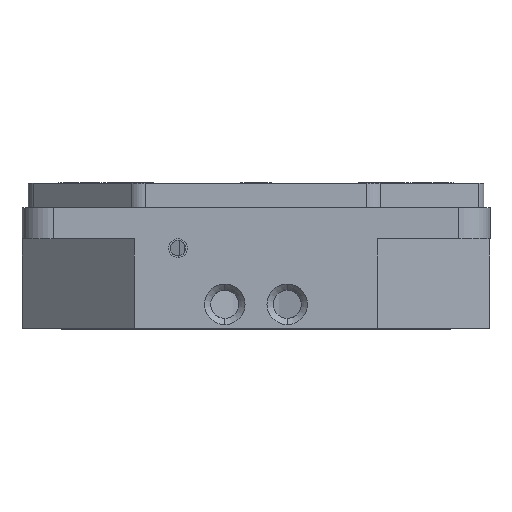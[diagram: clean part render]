
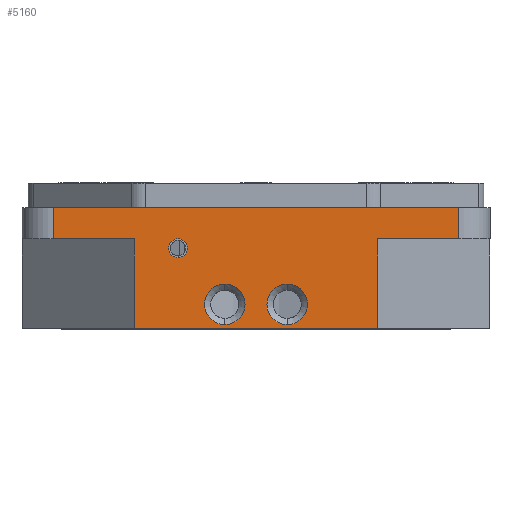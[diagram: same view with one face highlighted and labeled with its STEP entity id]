
A CAD part, front view. The second image highlights one B-rep face of the part: STEP entity #5160.
In plain terms, the highlighted planar face has unit normal (0, -1, 0).
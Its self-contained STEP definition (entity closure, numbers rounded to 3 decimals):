
#12 = DIRECTION ( 'NONE',  ( 0., 0., -1. ) ) ;
#232 = VERTEX_POINT ( 'NONE', #8601 ) ;
#301 = CARTESIAN_POINT ( 'NONE',  ( -39., -75., 29. ) ) ;
#320 = ORIENTED_EDGE ( 'NONE', *, *, #4860, .F. ) ;
#416 = DIRECTION ( 'NONE',  ( 0., -1., 0. ) ) ;
#451 = CARTESIAN_POINT ( 'NONE',  ( 39., -75., 29. ) ) ;
#520 = VERTEX_POINT ( 'NONE', #1180 ) ;
#544 = AXIS2_PLACEMENT_3D ( 'NONE', #4646, #6101, #8159 ) ;
#555 = EDGE_CURVE ( 'NONE', #7553, #1609, #5894, .T. ) ;
#560 = CARTESIAN_POINT ( 'NONE',  ( 65., -75., 39. ) ) ;
#561 = CARTESIAN_POINT ( 'NONE',  ( -65., -75., 29. ) ) ;
#663 = VECTOR ( 'NONE', #8248, 1000. ) ;
#703 = CARTESIAN_POINT ( 'NONE',  ( -65., -75., 39. ) ) ;
#757 = AXIS2_PLACEMENT_3D ( 'NONE', #8608, #4416, #3770 ) ;
#768 = FACE_BOUND ( 'NONE', #7473, .T. ) ;
#971 = EDGE_CURVE ( 'NONE', #8140, #6143, #1703, .T. ) ;
#976 = EDGE_CURVE ( 'NONE', #4348, #2391, #1151, .T. ) ;
#997 = VECTOR ( 'NONE', #8795, 1000. ) ;
#1034 = VERTEX_POINT ( 'NONE', #6052 ) ;
#1051 = DIRECTION ( 'NONE',  ( 0., 1., 0. ) ) ;
#1116 = VECTOR ( 'NONE', #3167, 1000. ) ;
#1151 = CIRCLE ( 'NONE', #8570, 2.5 ) ;
#1180 = CARTESIAN_POINT ( 'NONE',  ( 10., -75., 14.5 ) ) ;
#1332 = ORIENTED_EDGE ( 'NONE', *, *, #555, .T. ) ;
#1333 = LINE ( 'NONE', #4205, #9083 ) ;
#1356 = ORIENTED_EDGE ( 'NONE', *, *, #3494, .T. ) ;
#1517 = EDGE_LOOP ( 'NONE', ( #6042, #8488 ) ) ;
#1609 = VERTEX_POINT ( 'NONE', #5195 ) ;
#1703 = CIRCLE ( 'NONE', #757, 6.5 ) ;
#1750 = EDGE_CURVE ( 'NONE', #7039, #520, #6757, .T. ) ;
#1810 = CARTESIAN_POINT ( 'NONE',  ( -39., -75., 0.2 ) ) ;
#1893 = CARTESIAN_POINT ( 'NONE',  ( -25., -75., 23.5 ) ) ;
#2032 = DIRECTION ( 'NONE',  ( 0., 0., -1. ) ) ;
#2102 = DIRECTION ( 'NONE',  ( 0., 0., -1. ) ) ;
#2145 = CIRCLE ( 'NONE', #544, 6.5 ) ;
#2346 = ORIENTED_EDGE ( 'NONE', *, *, #2858, .T. ) ;
#2391 = VERTEX_POINT ( 'NONE', #1893 ) ;
#2504 = CARTESIAN_POINT ( 'NONE',  ( 65., -75., 29. ) ) ;
#2570 = VECTOR ( 'NONE', #7135, 1000. ) ;
#2858 = EDGE_CURVE ( 'NONE', #6907, #1034, #4977, .T. ) ;
#2893 = DIRECTION ( 'NONE',  ( 0., 0., 1. ) ) ;
#2978 = LINE ( 'NONE', #5226, #1116 ) ;
#3147 = ORIENTED_EDGE ( 'NONE', *, *, #4973, .F. ) ;
#3167 = DIRECTION ( 'NONE',  ( 1., 0., 0. ) ) ;
#3405 = CARTESIAN_POINT ( 'NONE',  ( -25., -75., 28.5 ) ) ;
#3414 = VECTOR ( 'NONE', #7868, 1000. ) ;
#3494 = EDGE_CURVE ( 'NONE', #6143, #8140, #3537, .T. ) ;
#3518 = AXIS2_PLACEMENT_3D ( 'NONE', #8134, #5319, #2893 ) ;
#3537 = CIRCLE ( 'NONE', #5956, 6.5 ) ;
#3566 = EDGE_CURVE ( 'NONE', #232, #6907, #8301, .T. ) ;
#3672 = EDGE_LOOP ( 'NONE', ( #1356, #6414 ) ) ;
#3770 = DIRECTION ( 'NONE',  ( 0., 0., 1. ) ) ;
#3811 = EDGE_LOOP ( 'NONE', ( #1332, #320, #9088, #3147, #7195, #8769, #2346, #6840 ) ) ;
#3966 = LINE ( 'NONE', #2504, #997 ) ;
#4182 = DIRECTION ( 'NONE',  ( 0., 1., 0. ) ) ;
#4205 = CARTESIAN_POINT ( 'NONE',  ( -39., -75., 29. ) ) ;
#4348 = VERTEX_POINT ( 'NONE', #3405 ) ;
#4377 = ORIENTED_EDGE ( 'NONE', *, *, #1750, .T. ) ;
#4396 = EDGE_CURVE ( 'NONE', #2391, #4348, #6392, .T. ) ;
#4416 = DIRECTION ( 'NONE',  ( 0., 1., 0. ) ) ;
#4633 = LINE ( 'NONE', #6441, #3414 ) ;
#4646 = CARTESIAN_POINT ( 'NONE',  ( 10., -75., 8. ) ) ;
#4794 = DIRECTION ( 'NONE',  ( 0., 0., 1. ) ) ;
#4860 = EDGE_CURVE ( 'NONE', #7282, #1609, #7055, .T. ) ;
#4886 = CARTESIAN_POINT ( 'NONE',  ( -10., -75., 8. ) ) ;
#4973 = EDGE_CURVE ( 'NONE', #8160, #9189, #4633, .T. ) ;
#4977 = LINE ( 'NONE', #6423, #2570 ) ;
#5096 = EDGE_CURVE ( 'NONE', #232, #8160, #2978, .T. ) ;
#5140 = CARTESIAN_POINT ( 'NONE',  ( -10., -75., 1.5 ) ) ;
#5160 = ADVANCED_FACE ( 'NONE', ( #5166, #768, #8061, #6183 ), #6654, .F. ) ;
#5166 = FACE_BOUND ( 'NONE', #1517, .T. ) ;
#5195 = CARTESIAN_POINT ( 'NONE',  ( 39., -75., 0.2 ) ) ;
#5226 = CARTESIAN_POINT ( 'NONE',  ( 65., -75., 39. ) ) ;
#5296 = DIRECTION ( 'NONE',  ( 0., 0., -1. ) ) ;
#5319 = DIRECTION ( 'NONE',  ( 0., 1., 0. ) ) ;
#5324 = EDGE_CURVE ( 'NONE', #520, #7039, #2145, .T. ) ;
#5441 = VECTOR ( 'NONE', #7490, 1000. ) ;
#5894 = LINE ( 'NONE', #7461, #5441 ) ;
#5956 = AXIS2_PLACEMENT_3D ( 'NONE', #4886, #4182, #4794 ) ;
#6042 = ORIENTED_EDGE ( 'NONE', *, *, #4396, .F. ) ;
#6052 = CARTESIAN_POINT ( 'NONE',  ( -39., -75., 29. ) ) ;
#6090 = CARTESIAN_POINT ( 'NONE',  ( 65., -75., 29. ) ) ;
#6101 = DIRECTION ( 'NONE',  ( 0., 1., 0. ) ) ;
#6143 = VERTEX_POINT ( 'NONE', #5140 ) ;
#6183 = FACE_OUTER_BOUND ( 'NONE', #3811, .T. ) ;
#6265 = CARTESIAN_POINT ( 'NONE',  ( -25., -75., 26. ) ) ;
#6287 = DIRECTION ( 'NONE',  ( 0., -1., 0. ) ) ;
#6392 = CIRCLE ( 'NONE', #7214, 2.5 ) ;
#6414 = ORIENTED_EDGE ( 'NONE', *, *, #971, .T. ) ;
#6423 = CARTESIAN_POINT ( 'NONE',  ( 65., -75., 29. ) ) ;
#6441 = CARTESIAN_POINT ( 'NONE',  ( 65., -75., 39. ) ) ;
#6654 = PLANE ( 'NONE',  #7036 ) ;
#6684 = DIRECTION ( 'NONE',  ( 0., 0., 1. ) ) ;
#6757 = CIRCLE ( 'NONE', #3518, 6.5 ) ;
#6840 = ORIENTED_EDGE ( 'NONE', *, *, #7713, .T. ) ;
#6854 = VECTOR ( 'NONE', #12, 1000. ) ;
#6907 = VERTEX_POINT ( 'NONE', #561 ) ;
#7036 = AXIS2_PLACEMENT_3D ( 'NONE', #301, #1051, #6684 ) ;
#7039 = VERTEX_POINT ( 'NONE', #9198 ) ;
#7055 = LINE ( 'NONE', #451, #663 ) ;
#7135 = DIRECTION ( 'NONE',  ( 1., 0., 0. ) ) ;
#7195 = ORIENTED_EDGE ( 'NONE', *, *, #5096, .F. ) ;
#7214 = AXIS2_PLACEMENT_3D ( 'NONE', #6265, #6287, #2032 ) ;
#7282 = VERTEX_POINT ( 'NONE', #7994 ) ;
#7461 = CARTESIAN_POINT ( 'NONE',  ( -39., -75., 0.2 ) ) ;
#7473 = EDGE_LOOP ( 'NONE', ( #4377, #8370 ) ) ;
#7490 = DIRECTION ( 'NONE',  ( 1., 0., 0. ) ) ;
#7553 = VERTEX_POINT ( 'NONE', #1810 ) ;
#7713 = EDGE_CURVE ( 'NONE', #1034, #7553, #1333, .T. ) ;
#7868 = DIRECTION ( 'NONE',  ( 0., 0., -1. ) ) ;
#7943 = EDGE_CURVE ( 'NONE', #7282, #9189, #3966, .T. ) ;
#7994 = CARTESIAN_POINT ( 'NONE',  ( 39., -75., 29. ) ) ;
#8061 = FACE_BOUND ( 'NONE', #3672, .T. ) ;
#8134 = CARTESIAN_POINT ( 'NONE',  ( 10., -75., 8. ) ) ;
#8140 = VERTEX_POINT ( 'NONE', #9047 ) ;
#8159 = DIRECTION ( 'NONE',  ( 0., 0., 1. ) ) ;
#8160 = VERTEX_POINT ( 'NONE', #560 ) ;
#8248 = DIRECTION ( 'NONE',  ( 0., 0., -1. ) ) ;
#8301 = LINE ( 'NONE', #703, #6854 ) ;
#8370 = ORIENTED_EDGE ( 'NONE', *, *, #5324, .T. ) ;
#8488 = ORIENTED_EDGE ( 'NONE', *, *, #976, .F. ) ;
#8570 = AXIS2_PLACEMENT_3D ( 'NONE', #8894, #416, #5296 ) ;
#8601 = CARTESIAN_POINT ( 'NONE',  ( -65., -75., 39. ) ) ;
#8608 = CARTESIAN_POINT ( 'NONE',  ( -10., -75., 8. ) ) ;
#8769 = ORIENTED_EDGE ( 'NONE', *, *, #3566, .T. ) ;
#8795 = DIRECTION ( 'NONE',  ( 1., 0., 0. ) ) ;
#8894 = CARTESIAN_POINT ( 'NONE',  ( -25., -75., 26. ) ) ;
#9047 = CARTESIAN_POINT ( 'NONE',  ( -10., -75., 14.5 ) ) ;
#9083 = VECTOR ( 'NONE', #2102, 1000. ) ;
#9088 = ORIENTED_EDGE ( 'NONE', *, *, #7943, .T. ) ;
#9189 = VERTEX_POINT ( 'NONE', #6090 ) ;
#9198 = CARTESIAN_POINT ( 'NONE',  ( 10., -75., 1.5 ) ) ;
